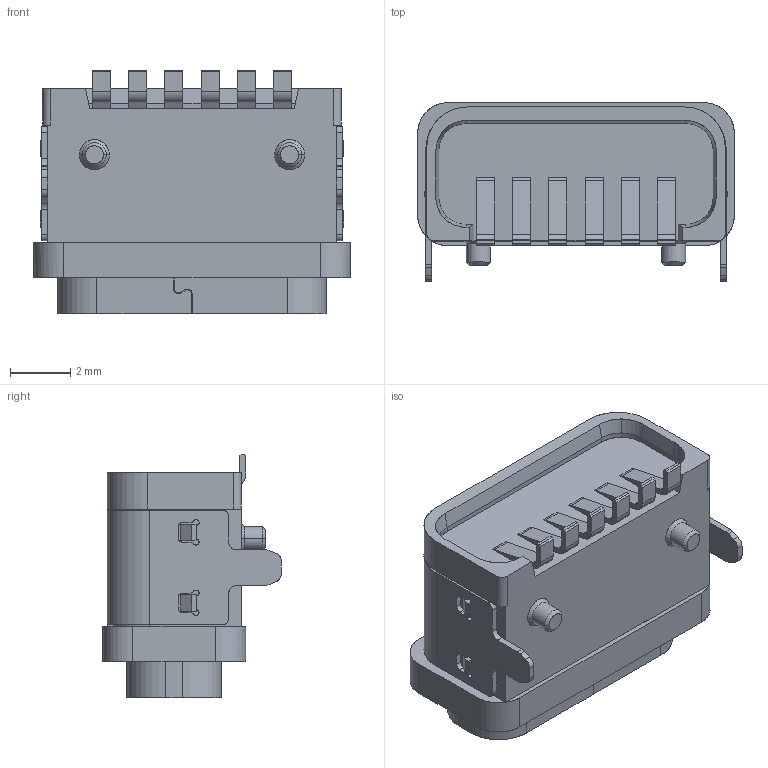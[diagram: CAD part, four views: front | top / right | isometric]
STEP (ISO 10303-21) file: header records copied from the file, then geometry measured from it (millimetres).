
FILE_DESCRIPTION(('CATIA V5 STEP Exchange'),'2;1');
FILE_NAME('C:\Users\Administrator\Desktop\1020610AR001_TYPE.stp','2023-12-15T07:32:46+00:00',('none'),('none'),'CATIA Version 5 Release 21 GA (IN-10)','CATIA V5 STEP AP203','none');
FILE_SCHEMA(('CONFIG_CONTROL_DESIGN'));
Length unit declared in the file: millimetre
Products named in the file (1): 1020610AR001_TYPE
Bounding box: 10.54 x 5.95 x 8.12 mm (x, y, z)
Surface area: 597.6 mm2 (no closed solid volume)
Topology: 0 solids, 677 shells, 677 faces, 3918 edges, 3918 vertices
Faces by surface type: plane 469, cylinder 172, revolution 36
Entity records: 38842 total; most frequent: CARTESIAN_POINT 9962, DIRECTION 4808, ORIENTED_EDGE 3918, EDGE_CURVE 3918, VERTEX_POINT 3918, VECTOR 2976, LINE 2976, AXIS2_PLACEMENT_3D 1156
